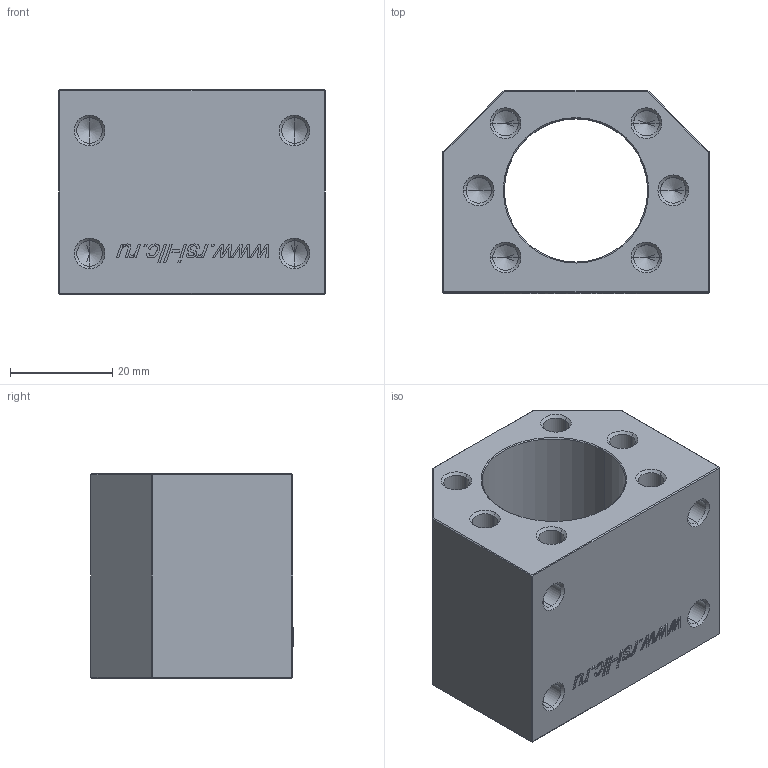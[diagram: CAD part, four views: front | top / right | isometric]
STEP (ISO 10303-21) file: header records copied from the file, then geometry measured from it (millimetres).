
FILE_DESCRIPTION (( 'STEP AP214' ), '1' );
FILE_NAME ('MGD16.STEP', '2020-10-05T12:05:13', ( '' ), ( '' ), 'SwSTEP 2.0', 'SolidWorks 2018', '' );
FILE_SCHEMA (( 'AUTOMOTIVE_DESIGN' ));
Length unit declared in the file: millimetre
Products named in the file (1): MGD16
Bounding box: 52 x 39.6 x 40 mm (x, y, z)
Volume: 48323.3 mm3; surface area: 15454.1 mm2
Topology: 1 solids, 1 shells, 252 faces, 649 edges, 404 vertices
Faces by surface type: plane 144, cone 44, bspline 38, cylinder 26
Entity records: 11183 total; most frequent: CARTESIAN_POINT 3676, ORIENTED_EDGE 1258, DIRECTION 1035, EDGE_CURVE 629, VECTOR 469, LINE 469, VERTEX_POINT 404, AXIS2_PLACEMENT_3D 283
